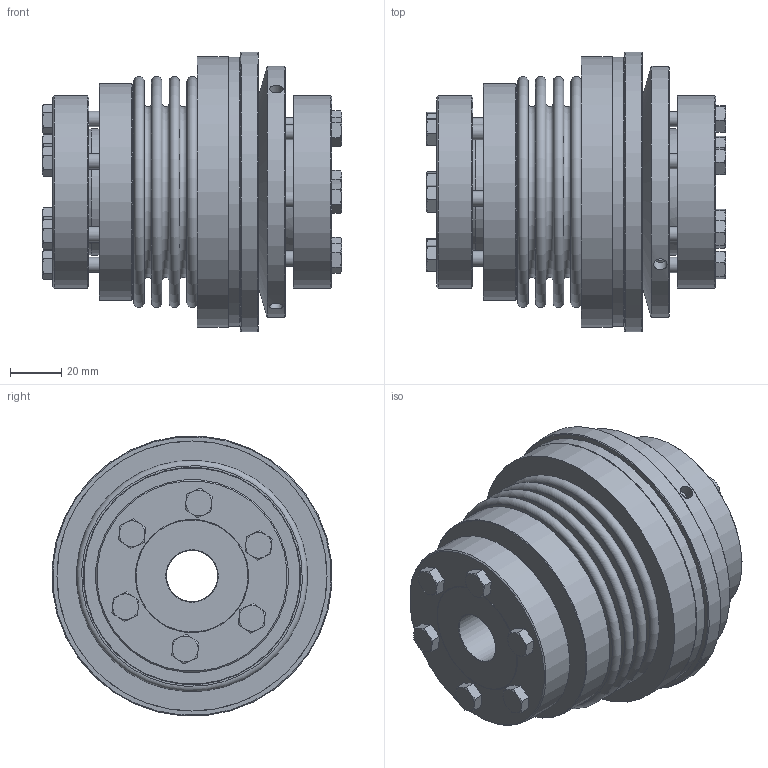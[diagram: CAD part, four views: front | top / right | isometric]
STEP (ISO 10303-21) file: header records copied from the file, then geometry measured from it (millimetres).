
FILE_DESCRIPTION( ( 'Unknown' ), '1' );
FILE_NAME( 'K:/Konstruktion/Korrigierte 3D Modelle/KBK-B-AA/KBK-BAA-200-118.stp', 'Unknown', ( 'Unknown' ), ( 'Unknown' ), 'PSStep 16.0.42', 'Unknown', ' ' );
FILE_SCHEMA( ( 'AUTOMOTIVE_DESIGN { 1 0 10303 214 1 1 1 1 }' ) );
Length unit declared in the file: millimetre
Products named in the file (18): KBK L-A-200 Grundkörper; Druckring L-A-200; din_en_24017_m6x25_0; Stellring 200; Druckring 200; A-200; BA6-200; Hex Screw GradeC_DIN_ISO 4018 - M6 x 30-NN_1; BA200_Standard; DR200_Standard; Assem1; BK200_Standard_0; Flansch BK200
Assembly tree (27 placements, depth 4):
  Assem1
    BK200_Standard_0
    Flansch BK200
    BA6-200
      Hex Screw GradeC_DIN_ISO 4018 - M6 x 30-NN_1  x6
      BA200_Standard
      DR200_Standard
    A-200
      Stellring 200
        Stellring 200
      Druckring 200
        Druckring 200
      KBK L-A-200 Grundkörper
        KBK L-A-200 Grundkörper
      din_en_24017_m6x25_0  x6
        din_en_24017_m6x25_0
      Druckring L-A-200
        Druckring L-A-200
Bounding box: 116.3 x 108.72 x 108.72 mm (x, y, z)
Volume: 492310 mm3; surface area: 189671.3 mm2
Topology: 20 solids, 20 shells, 415 faces, 869 edges, 552 vertices
Faces by surface type: plane 188, cone 125, cylinder 76, torus 26
Full cylindrical faces by diameter (mm): 3.242 x3, 4.917 x6, 5 x6, 5.2 x6, 6 x12, 6.6 x12, 8.8 x6, 20 x2, 47 x1, 49.29 x2, 50 x2, 60 x1, 62 x1, 65 x1, 66 x2, 75 x2, 77 x1, 79.2 x2, 80.4 x2, 84.5 x1, 90 x1, 98 x1, 105 x2, 109 x1
Entity records: 7764 total; most frequent: CARTESIAN_POINT 1295, DIRECTION 1010, ORIENTED_EDGE 624, AXIS2_PLACEMENT_3D 481, EDGE_LOOP 430, EDGE_CURVE 312, FACE_OUTER_BOUND 302, VERTEX_POINT 272
